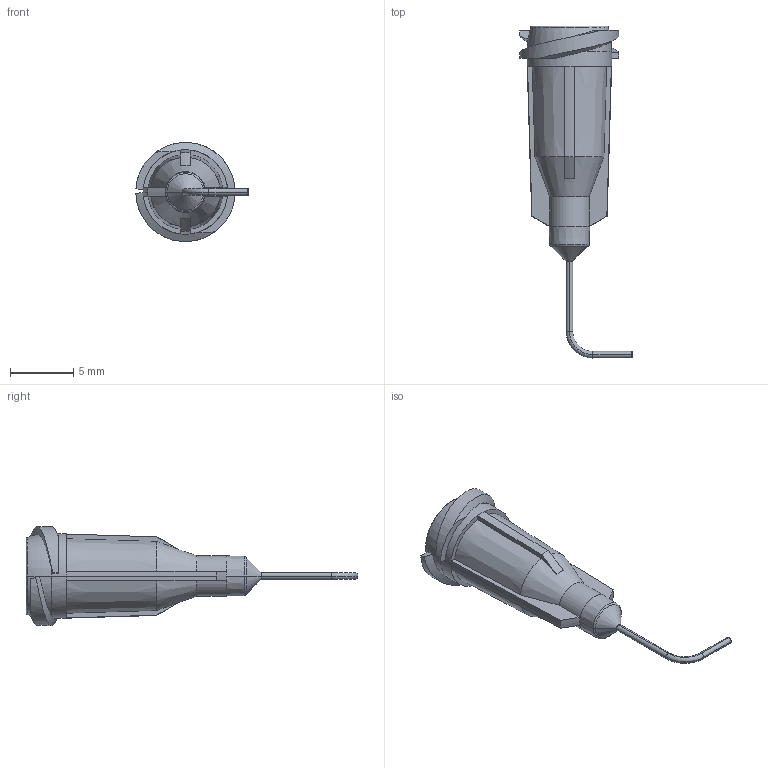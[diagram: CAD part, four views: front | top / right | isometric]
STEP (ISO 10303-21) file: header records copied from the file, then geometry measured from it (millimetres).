
FILE_DESCRIPTION (( 'STEP AP214' ), '1' );
FILE_NAME ('NORDSONEFD-7018343 TIP 25GA GP 010 90D RD.STEP', '2019-06-06T15:41:26', ( '' ), ( '' ), 'SwSTEP 2.0', 'SolidWorks 2019', '' );
FILE_SCHEMA (( 'AUTOMOTIVE_DESIGN' ));
Length unit declared in the file: inch
Products named in the file (1): NORDSONEFD-7018343 TIP 25GA GP 010 90D RD
Bounding box: 8.86 x 26.18 x 7.81 mm (x, y, z)
Volume: 266.9 mm3; surface area: 564.4 mm2
Topology: 1 solids, 1 shells, 128 faces, 294 edges, 172 vertices
Faces by surface type: torus 38, cylinder 30, plane 26, cone 22, bspline 12
Entity records: 4484 total; most frequent: CARTESIAN_POINT 1129, DIRECTION 638, ORIENTED_EDGE 588, EDGE_CURVE 294, AXIS2_PLACEMENT_3D 283, VERTEX_POINT 172, CIRCLE 166, EDGE_LOOP 134
